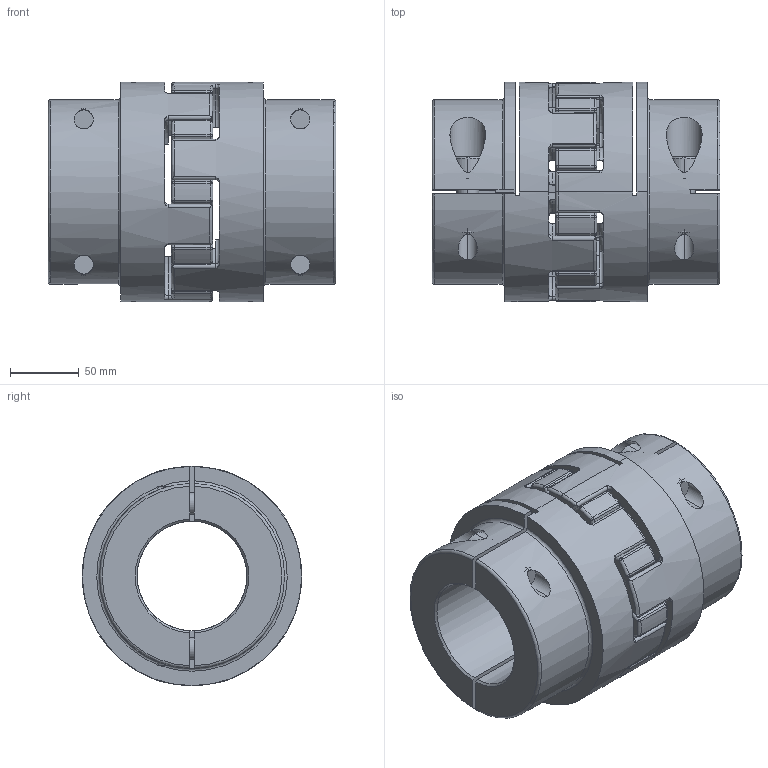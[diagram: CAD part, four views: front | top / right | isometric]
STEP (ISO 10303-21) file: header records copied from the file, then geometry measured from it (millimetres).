
FILE_DESCRIPTION (( 'STEP AP214' ), '1' );
FILE_NAME ('SJC-160C ASSY.STEP', '2016-03-16T09:08:18', ( '' ), ( '' ), 'SwSTEP 2.0', 'SolidWorks 2015', '' );
FILE_SCHEMA (( 'AUTOMOTIVE_DESIGN' ));
Length unit declared in the file: millimetre
Products named in the file (1): SJC-160C ASSY
Bounding box: 210 x 160.45 x 160 mm (x, y, z)
Surface area: 301081.1 mm2 (no closed solid volume)
Topology: 0 solids, 11 shells, 460 faces, 1358 edges, 876 vertices
Faces by surface type: cylinder 144, torus 138, plane 86, sphere 48, cone 44
Entity records: 22159 total; most frequent: CARTESIAN_POINT 4807, DIRECTION 2914, ORIENTED_EDGE 2286, EDGE_CURVE 1334, AXIS2_PLACEMENT_3D 1291, VERTEX_POINT 868, CIRCLE 830, EDGE_LOOP 488
